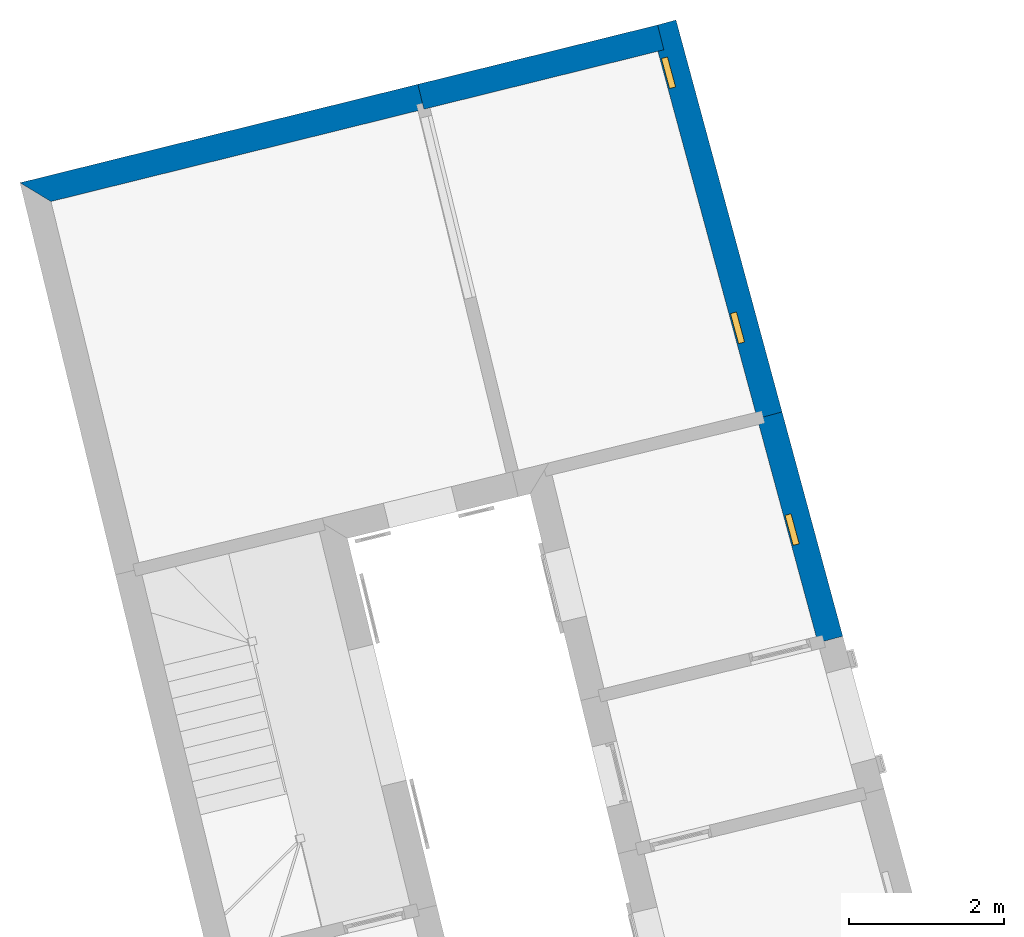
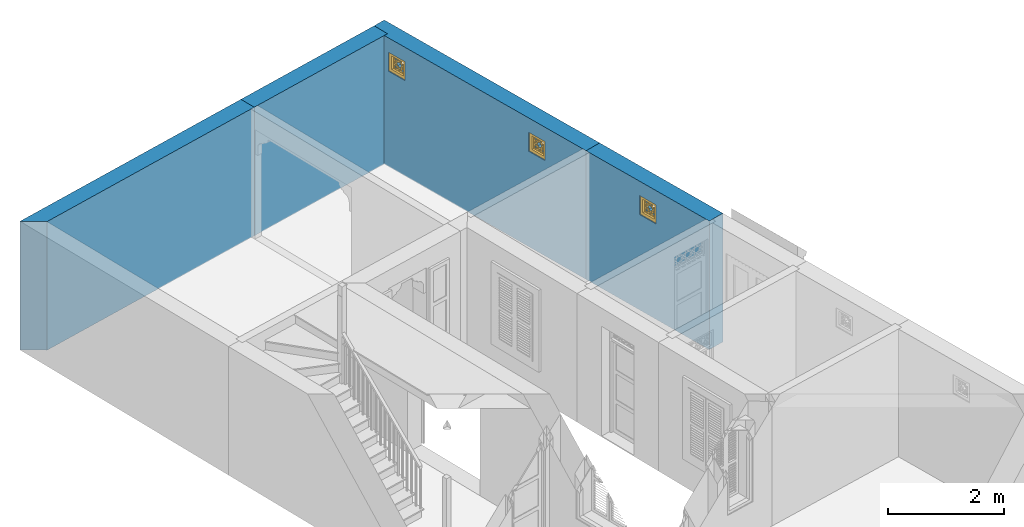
# One storey, part 14 of 15: 4 walls, 3 windows, 3 openings.
"""IFC4 building model written with IfcOpenShell, lengths in metres."""

from ifc_helpers import new_model, si_unit, frame, origin, origin_with_axes, place, context, subcontext, project, spatial, polyline, outline, extrude, faceted_brep, source, transform, mapped, material, layer, layer_set, layer_usage, type_object, type_shapes, element, fill, save


model = new_model("IFC4")

# Units and contexts
model_context = context("Model", 3, world=origin_with_axes())
body_context = subcontext(model_context, "Body", "Model", "MODEL_VIEW")
ifc_project = project(units=[si_unit("PLANEANGLEUNIT", "RADIAN"), si_unit("MASSUNIT", "GRAM", prefix="KILO"), si_unit("FORCEUNIT", "NEWTON", prefix="KILO"), si_unit("LENGTHUNIT", "METRE"), si_unit("AREAUNIT", "SQUARE_METRE"), si_unit("VOLUMEUNIT", "CUBIC_METRE")], contexts=[model_context, model_context])

# Site, building, storey
site_placement = place(None, origin_with_axes())
site = spatial("IfcSite", under=ifc_project, at=site_placement, Name="Site plot-4", CompositionType="ELEMENT")
building_placement = place(None, origin_with_axes())
building = spatial("IfcBuilding", under=site, at=building_placement, Name="Building plot-4", CompositionType="ELEMENT")
storey_placement = place(None, origin_with_axes())
storey = spatial("IfcBuildingStorey", under=building, at=storey_placement, Name="plot-4 0", CompositionType="ELEMENT", Elevation=0.0)

# Wall, opening, window
ifc_material_1 = material(Name="Masonry")
ifc_layer_1 = layer(ifc_material_1, 0.33, ventilated=False)
ifc_layer_set_1 = layer_set([ifc_layer_1], Name="exterior_0.08_0.25")
ifc_layer_usage_1 = layer_usage(ifc_layer_set_1, "AXIS2", "POSITIVE", -0.25)
wall_type_1 = type_object("IfcWallType", Name="exterior_0.08_0.25", PredefinedType="SOLIDWALL", material=ifc_layer_set_1)
wall_1_placement = place(storey_placement, frame((27.3990697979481, 13.5162547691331, 0.0), z_axis=(0.0, 0.0, 1.0), x_axis=(-0.261170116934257, 0.965292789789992, 0.0)))
wall_1 = element("IfcWall", 1, at=wall_1_placement, inside=storey, type_object=wall_type_1, material=ifc_layer_usage_1, Name="exterior", context=body_context, shape_type="SweptSolid", body=[
    extrude(outline(polyline([(3.06879249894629e-16, 0.0799999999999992), (-1.48349299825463e-15, -0.250000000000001), (2.98942630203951, -0.250000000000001), (2.98942630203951, 0.079999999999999), (3.06879249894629e-16, 0.0799999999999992)])), origin_with_axes(), (0.0, 0.0, 1.0), 2.7),
])
opening_1_placement = place(wall_1_placement, frame((1.29471315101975, 0.0, 2.0)))
opening_1 = element("IfcOpeningElement", 2, at=opening_1_placement, cuts=wall_1, Name="My Opening", ObjectType="Opening", context=body_context, shape_type="SweptSolid", body=[
    extrude(outline(polyline([(0.0, -0.270000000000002), (0.399999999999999, -0.270000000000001), (0.399999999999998, 1.1), (-4.44089209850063e-16, 1.1), (0.0, -0.270000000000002)])), origin_with_axes(), (0.0, 0.0, 1.0), 0.4),
])
window_type = type_object("IfcWindowType", Name="barred_window", PartitioningType="DOUBLE_PANEL_HORIZONTAL", PredefinedType="NOTDEFINED")
shared_shape = source(origin(), body_context, "Body", "Brep", [
    faceted_brep([(0.4, 0.25, 0.4), (0.0, 0.25, 0.4), (0.06, 0.25, 0.34), (0.34, 0.25, 0.34), (0.06, 0.33, 0.34), (0.34, 0.33, 0.34), (0.34, 0.25, 0.06), (0.4, 0.25, 0.0), (0.4, 0.33, 0.4), (0.0, 0.33, 0.4), (0.0, 0.25, 0.0), (0.06, 0.25, 0.06), (0.06, 0.33, 0.06), (0.34, 0.33, 0.06), (0.4, 0.33, 0.0), (0.0, 0.33, 0.0), (0.136152, 0.28, 0.08), (0.08, 0.28, 0.08), (0.06, 0.28, 0.06), (0.136152, 0.28, 0.06), (0.136152, 0.29, 0.08), (0.08, 0.29, 0.08), (0.06, 0.28, 0.136152), (0.08, 0.28, 0.136152), (0.06, 0.29, 0.06), (0.136152, 0.29, 0.06), (0.170294, 0.28, 0.08), (0.170294, 0.28, 0.06), (0.136152, 0.28, 0.136152), (0.136152, 0.29, 0.136152), (0.08, 0.29, 0.136152), (0.06, 0.29, 0.136152), (0.08, 0.28, 0.170294), (0.06, 0.28, 0.170294), (0.170294, 0.29, 0.06), (0.229706, 0.28, 0.08), (0.229706, 0.28, 0.06), (0.156152, 0.28, 0.094142), (0.156152, 0.28, 0.136152), (0.185858, 0.28, 0.123848), (0.185858, 0.29, 0.123848), (0.156152, 0.29, 0.094142), (0.156152, 0.29, 0.136152), (0.229706, 0.29, 0.08), (0.170294, 0.29, 0.08), (0.2, 0.28, 0.109706), (0.2, 0.29, 0.109706), (0.06, 0.29, 0.170294), (0.094142, 0.28, 0.156152), (0.08, 0.28, 0.229706), (0.06, 0.28, 0.229706), (0.229706, 0.29, 0.06), (0.263848, 0.28, 0.08), (0.263848, 0.28, 0.06), (0.156152, 0.28, 0.156152), (0.136152, 0.28, 0.156152), (0.173553, 0.28, 0.136152), (0.173553, 0.29, 0.136152), (0.156152, 0.29, 0.156152), (0.136152, 0.29, 0.156152), (0.094142, 0.29, 0.156152), (0.08, 0.29, 0.170294), (0.06, 0.29, 0.229706), (0.123848, 0.28, 0.185858), (0.109706, 0.28, 0.2), (0.08, 0.29, 0.229706), (0.08, 0.28, 0.263848), (0.06, 0.28, 0.263848), (0.263848, 0.29, 0.06), (0.2, 0.28, 0.13799), (0.214142, 0.28, 0.123848), (0.34, 0.28, 0.06), (0.32, 0.28, 0.08), (0.181838, 0.28, 0.156152), (0.136152, 0.28, 0.173553), (0.156152, 0.28, 0.181838), (0.181838, 0.29, 0.156152), (0.2, 0.29, 0.13799), (0.214142, 0.29, 0.123848), (0.136152, 0.29, 0.173553), (0.156152, 0.29, 0.181838), (0.243848, 0.28, 0.094142), (0.243848, 0.29, 0.094142), (0.263848, 0.28, 0.136152), (0.263848, 0.29, 0.08), (0.263848, 0.29, 0.136152), (0.32, 0.29, 0.08), (0.243848, 0.28, 0.136152), (0.243848, 0.29, 0.136152), (0.06, 0.29, 0.263848), (0.123848, 0.29, 0.185858), (0.13799, 0.28, 0.2), (0.123848, 0.28, 0.214142), (0.109706, 0.29, 0.2), (0.094142, 0.28, 0.243848), (0.08, 0.28, 0.32), (0.06, 0.28, 0.34), (0.34, 0.29, 0.06), (0.218162, 0.28, 0.156152), (0.226447, 0.28, 0.136152), (0.34, 0.28, 0.229706), (0.32, 0.28, 0.229706), (0.32, 0.28, 0.170294), (0.32, 0.28, 0.136152), (0.218162, 0.29, 0.156152), (0.226447, 0.29, 0.136152), (0.13799, 0.29, 0.2), (0.32, 0.29, 0.136152), (0.08, 0.29, 0.263848), (0.06, 0.29, 0.34), (0.136152, 0.28, 0.226447), (0.156152, 0.28, 0.218162), (0.094142, 0.29, 0.243848), (0.123848, 0.29, 0.214142), (0.136152, 0.28, 0.243848), (0.136152, 0.28, 0.263848), (0.08, 0.29, 0.32), (0.136152, 0.28, 0.34), (0.136152, 0.28, 0.32), (0.34, 0.29, 0.229706), (0.243848, 0.28, 0.156152), (0.263848, 0.28, 0.156152), (0.34, 0.28, 0.263848), (0.32, 0.28, 0.263848), (0.32, 0.29, 0.229706), (0.32, 0.29, 0.170294), (0.290294, 0.28, 0.2), (0.276152, 0.28, 0.185858), (0.305858, 0.28, 0.156152), (0.243848, 0.29, 0.156152), (0.263848, 0.29, 0.156152), (0.305858, 0.29, 0.156152), (0.276152, 0.29, 0.185858), (0.290294, 0.29, 0.2), (0.136152, 0.29, 0.34), (0.136152, 0.29, 0.226447), (0.156152, 0.29, 0.218162), (0.156152, 0.28, 0.243848), (0.136152, 0.29, 0.243848), (0.156152, 0.28, 0.263848), (0.136152, 0.29, 0.263848), (0.136152, 0.29, 0.32), (0.170294, 0.28, 0.32), (0.170294, 0.28, 0.34), (0.34, 0.29, 0.263848), (0.243848, 0.28, 0.181838), (0.263848, 0.28, 0.173553), (0.34, 0.28, 0.34), (0.32, 0.28, 0.32), (0.305858, 0.28, 0.243848), (0.276152, 0.28, 0.214142), (0.26201, 0.28, 0.2), (0.243848, 0.29, 0.181838), (0.263848, 0.29, 0.173553), (0.26201, 0.29, 0.2), (0.276152, 0.29, 0.214142), (0.32, 0.29, 0.263848), (0.170294, 0.29, 0.34), (0.156152, 0.29, 0.243848), (0.173553, 0.28, 0.263848), (0.181838, 0.28, 0.243848), (0.156152, 0.28, 0.305858), (0.229706, 0.28, 0.32), (0.229706, 0.28, 0.34), (0.34, 0.29, 0.34), (0.263848, 0.28, 0.34), (0.263848, 0.28, 0.32), (0.32, 0.29, 0.32), (0.263848, 0.28, 0.263848), (0.263848, 0.28, 0.243848), (0.305858, 0.29, 0.243848), (0.263848, 0.28, 0.226447), (0.243848, 0.28, 0.218162), (0.243848, 0.29, 0.218162), (0.263848, 0.29, 0.226447), (0.156152, 0.29, 0.263848), (0.170294, 0.29, 0.32), (0.229706, 0.29, 0.34), (0.181838, 0.29, 0.243848), (0.173553, 0.29, 0.263848), (0.185858, 0.28, 0.276152), (0.2, 0.28, 0.26201), (0.156152, 0.29, 0.305858), (0.229706, 0.29, 0.32), (0.263848, 0.29, 0.34), (0.263848, 0.29, 0.32), (0.263848, 0.29, 0.263848), (0.243848, 0.28, 0.243848), (0.243848, 0.28, 0.263848), (0.263848, 0.29, 0.243848), (0.243848, 0.29, 0.243848), (0.2, 0.29, 0.26201), (0.185858, 0.29, 0.276152), (0.214142, 0.28, 0.276152), (0.218162, 0.28, 0.243848), (0.226447, 0.28, 0.263848), (0.243848, 0.28, 0.305858), (0.2, 0.28, 0.290294), (0.2, 0.29, 0.290294), (0.243848, 0.29, 0.263848), (0.218162, 0.29, 0.243848), (0.214142, 0.29, 0.276152), (0.226447, 0.29, 0.263848), (0.243848, 0.29, 0.305858)], [[[0, 1, 2, 3]], [[3, 2, 4, 5]], [[3, 6, 7, 0]], [[1, 0, 8, 9]], [[1, 10, 11, 2]], [[2, 11, 12, 4]], [[9, 8, 5, 4]], [[6, 3, 5, 13]], [[6, 11, 10, 7]], [[0, 7, 14, 8]], [[10, 1, 9, 15]], [[11, 6, 13, 12]], [[4, 12, 15, 9]], [[8, 14, 13, 5]], [[7, 10, 15, 14]], [[12, 13, 14, 15]], [[16, 17, 18, 19]], [[17, 16, 20, 21]], [[22, 18, 17, 23]], [[19, 18, 24, 25]], [[26, 16, 19, 27]], [[16, 28, 29, 20]], [[21, 20, 25, 24]], [[23, 17, 21, 30]], [[18, 22, 31, 24]], [[23, 32, 33, 22]], [[27, 19, 25, 34]], [[35, 26, 27, 36]], [[28, 16, 37, 38]], [[37, 39, 40, 41]], [[38, 37, 41, 42]], [[20, 29, 42, 41]], [[26, 35, 43, 44]], [[45, 26, 44, 46]], [[20, 44, 34, 25]], [[28, 23, 30, 29]], [[24, 31, 30, 21]], [[22, 33, 47, 31]], [[48, 32, 23]], [[32, 49, 50, 33]], [[36, 27, 34, 51]], [[39, 37, 26, 45]], [[52, 35, 36, 53]], [[38, 54, 55, 28]], [[39, 56, 57, 40]], [[41, 40, 46, 44]], [[56, 38, 42, 57]], [[58, 42, 29, 59]], [[35, 45, 46, 43]], [[44, 43, 51, 34]], [[23, 28, 55, 48]], [[29, 30, 60, 59]], [[61, 30, 31, 47]], [[33, 50, 62, 47]], [[48, 63, 64, 32]], [[49, 32, 61, 65]], [[49, 66, 67, 50]], [[53, 36, 51, 68]], [[69, 39, 45, 70]], [[53, 71, 72, 52]], [[73, 54, 38, 56]], [[74, 55, 54, 75]], [[56, 39, 69, 73]], [[40, 57, 76, 77]], [[40, 77, 78, 46]], [[58, 76, 57, 42]], [[59, 79, 80, 58]], [[45, 35, 81, 70]], [[43, 46, 78, 82]], [[83, 52, 84, 85]], [[82, 84, 43]], [[52, 72, 86, 84]], [[43, 84, 68, 51]], [[44, 20, 41]], [[70, 81, 82, 78]], [[81, 87, 88, 82]], [[48, 55, 59, 60]], [[61, 60, 30]], [[65, 61, 47, 62]], [[50, 67, 89, 62]], [[63, 48, 60, 90]], [[63, 91, 92, 64]], [[32, 64, 93, 61]], [[64, 49, 65, 93]], [[94, 66, 49]], [[66, 95, 96, 67]], [[71, 53, 68, 97]], [[98, 69, 70, 99]], [[81, 52, 83, 87]], [[72, 71, 100]], [[100, 101, 102]], [[103, 72, 100]], [[100, 102, 103]], [[54, 73, 76, 58]], [[55, 74, 79, 59]], [[75, 54, 58, 80]], [[63, 74, 75, 91]], [[73, 69, 77, 76]], [[77, 104, 105, 78]], [[79, 90, 106, 80]], [[84, 82, 88, 85]], [[103, 83, 85, 107]], [[72, 103, 107, 86]], [[97, 68, 84, 86]], [[99, 70, 78, 105]], [[87, 99, 105, 88]], [[90, 60, 61, 93]], [[108, 65, 62, 89]], [[67, 96, 109, 89]], [[74, 63, 90, 79]], [[110, 92, 91, 111]], [[49, 64, 92, 94]], [[93, 65, 112, 113]], [[94, 114, 115, 66]], [[95, 66, 108, 116]], [[117, 96, 95, 118]], [[100, 71, 97, 119]], [[69, 98, 104, 77]], [[99, 87, 120, 98]], [[87, 83, 121, 120]], [[101, 100, 122, 123]], [[102, 101, 124, 125]], [[121, 83, 103]], [[103, 102, 126]], [[126, 127, 128]], [[128, 121, 103]], [[103, 126, 128]], [[91, 75, 80, 106]], [[88, 105, 104, 129]], [[106, 90, 93, 113]], [[85, 88, 129, 130]], [[107, 85, 130]], [[131, 132, 133]], [[107, 130, 131]], [[133, 125, 107]], [[107, 131, 133]], [[124, 119, 97]], [[97, 86, 107]], [[107, 125, 124]], [[97, 107, 124]], [[108, 112, 65]], [[116, 108, 89, 109]], [[96, 117, 134, 109]], [[92, 110, 135, 113]], [[111, 91, 106, 136]], [[114, 110, 111, 137]], [[94, 92, 113, 112]], [[114, 94, 112, 138]], [[114, 137, 139, 115]], [[66, 115, 140, 108]], [[118, 95, 116, 141]], [[118, 142, 143, 117]], [[122, 100, 119, 144]], [[98, 120, 129, 104]], [[145, 120, 121, 146]], [[122, 147, 148, 123]], [[123, 149, 101]], [[101, 126, 133, 124]], [[126, 102, 125, 133]], [[127, 126, 150, 151]], [[128, 127, 132, 131]], [[121, 128, 131, 130]], [[113, 135, 136, 106]], [[129, 152, 153, 130]], [[133, 132, 154, 155]], [[119, 124, 156, 144]], [[138, 112, 108, 140]], [[109, 134, 141, 116]], [[117, 143, 157, 134]], [[110, 114, 138, 135]], [[137, 111, 136, 158]], [[159, 139, 137, 160]], [[118, 115, 139, 161]], [[115, 118, 141, 140]], [[161, 142, 118]], [[162, 163, 143, 142]], [[147, 122, 144, 164]], [[120, 145, 152, 129]], [[146, 121, 130, 153]], [[146, 127, 151, 145]], [[147, 165, 166, 148]], [[123, 148, 167, 156]], [[149, 123, 168, 169]], [[149, 150, 126, 101]], [[155, 170, 124, 133]], [[151, 150, 171, 172]], [[127, 146, 153, 132]], [[135, 138, 158, 136]], [[132, 153, 152, 154]], [[155, 154, 173, 174]], [[170, 156, 124]], [[164, 144, 156, 167]], [[158, 138, 140, 175]], [[176, 141, 134, 157]], [[143, 163, 177, 157]], [[160, 137, 158, 178]], [[139, 159, 179, 175]], [[180, 159, 160, 181]], [[161, 139, 175, 182]], [[140, 141, 182, 175]], [[166, 165, 163, 162]], [[162, 142, 176, 183]], [[165, 147, 164, 184]], [[145, 151, 154, 152]], [[148, 166, 185, 167]], [[156, 186, 168, 123]], [[187, 169, 168, 188]], [[149, 169, 189, 170]], [[150, 149, 170, 155]], [[171, 150, 155, 174]], [[171, 169, 187, 172]], [[151, 172, 173, 154]], [[189, 174, 173, 190]], [[156, 170, 189, 186]], [[184, 164, 167, 185]], [[175, 179, 178, 158]], [[176, 182, 141]], [[177, 183, 176, 157]], [[163, 165, 184, 177]], [[181, 160, 178, 191]], [[159, 180, 192, 179]], [[180, 161, 182, 192]], [[193, 181, 194, 195]], [[196, 162, 197, 193]], [[180, 197, 142, 161]], [[197, 180, 181, 193]], [[142, 197, 198, 176]], [[162, 196, 166]], [[35, 52, 81]], [[197, 162, 183, 198]], [[185, 166, 168, 186]], [[196, 188, 168, 166]], [[187, 188, 195, 194]], [[169, 171, 174, 189]], [[172, 187, 190, 173]], [[189, 190, 199, 186]], [[184, 185, 183, 177]], [[179, 192, 191, 178]], [[176, 198, 192, 182]], [[194, 181, 191, 200]], [[191, 192, 198, 201]], [[26, 37, 16]], [[193, 195, 202, 201]], [[196, 193, 201, 203]], [[191, 201, 202, 200]], [[183, 203, 201, 198]], [[188, 196, 203, 199]], [[203, 183, 185]], [[199, 203, 185, 186]], [[195, 188, 199, 202]], [[187, 194, 200, 190]], [[199, 190, 200, 202]]]),
])
type_shapes(window_type, [shared_shape])
window_1_placement = place(storey_placement, frame((27.3215584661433, 14.836547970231, 2.0), z_axis=(0.0, 0.0, 1.0), x_axis=(-0.104468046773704, 0.386117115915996, 0.0)))
window_1 = element("IfcWindow", 3, at=window_1_placement, inside=storey, type_object=window_type, Name="toilet street window", OverallHeight=0.4, OverallWidth=0.4, context=body_context, shape_type="MappedRepresentation", body=[
    mapped(shared_shape, transform((0.0, 0.0, 0.0), scale=1.0)),
])
fill(opening_1, window_1)

# Wall, openings, windows
wall_2_placement = place(storey_placement, frame((26.6183209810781, 16.4019264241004, 0.0), z_axis=(0.0, 0.0, 1.0), x_axis=(-0.261170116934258, 0.965292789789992, 0.0)))
wall_2 = element("IfcWall", 4, at=wall_2_placement, inside=storey, type_object=wall_type_1, material=ifc_layer_usage_1, Name="exterior", context=body_context, shape_type="SweptSolid", body=[
    extrude(outline(polyline([(3.60169955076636e-16, 0.0799999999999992), (-1.6500264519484e-15, -0.250000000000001), (5.22469834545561, -0.250000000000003), (5.22469834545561, 0.0799999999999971), (3.60169955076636e-16, 0.0799999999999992)])), origin_with_axes(), (0.0, 0.0, 1.0), 2.7),
])
opening_2_placement = place(wall_2_placement, frame((0.994698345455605, 0.0, 2.0)))
opening_2 = element("IfcOpeningElement", 5, at=opening_2_placement, cuts=wall_2, Name="My Opening", ObjectType="Opening", context=body_context, shape_type="SweptSolid", body=[
    extrude(outline(polyline([(0.0, -0.270000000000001), (0.400000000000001, -0.27), (0.400000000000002, 1.1), (1.88737914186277e-15, 1.1), (0.0, -0.270000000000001)])), origin_with_axes(), (0.0, 0.0, 1.0), 0.4),
])
opening_3_placement = place(wall_2_placement, frame((4.39469834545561, 0.0, 2.0)))
opening_3 = element("IfcOpeningElement", 6, at=opening_3_placement, cuts=wall_2, Name="My Opening", ObjectType="Opening", context=body_context, shape_type="SweptSolid", body=[
    extrude(outline(polyline([(0.0, -0.270000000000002), (0.400000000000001, -0.270000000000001), (0.400000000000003, 1.1), (1.77635683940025e-15, 1.1), (0.0, -0.270000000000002)])), origin_with_axes(), (0.0, 0.0, 1.0), 0.4),
])
window_2_placement = place(storey_placement, frame((26.6191645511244, 17.432617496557, 2.0), z_axis=(0.0, 0.0, 1.0), x_axis=(-0.104468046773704, 0.386117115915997, 0.0)))
window_2 = element("IfcWindow", 7, at=window_2_placement, inside=storey, type_object=window_type, Name="kitchen street window", OverallHeight=0.4, OverallWidth=0.4, context=body_context, shape_type="MappedRepresentation", body=[
    mapped(shared_shape, transform((0.0, 0.0, 0.0), scale=1.0)),
])
fill(opening_2, window_2)
window_3_placement = place(storey_placement, frame((25.731186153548, 20.714612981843, 2.0), z_axis=(0.0, 0.0, 1.0), x_axis=(-0.104468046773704, 0.386117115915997, 0.0)))
window_3 = element("IfcWindow", 8, at=window_3_placement, inside=storey, type_object=window_type, Name="kitchen street window", OverallHeight=0.4, OverallWidth=0.4, context=body_context, shape_type="MappedRepresentation", body=[
    mapped(shared_shape, transform((0.0, 0.0, 0.0), scale=1.0)),
])
fill(opening_3, window_3)

# Walls
ifc_material_2 = material(Name="Masonry")
ifc_layer_2 = layer(ifc_material_2, 0.33, ventilated=False)
ifc_layer_set_2 = layer_set([ifc_layer_2], Name="party_0.08_0.25")
ifc_layer_usage_2 = layer_usage(ifc_layer_set_2, "AXIS2", "POSITIVE", -0.25)
wall_type_2 = type_object("IfcWallType", Name="party_0.08_0.25", PredefinedType="SOLIDWALL", material=ifc_layer_set_2)
wall_3_placement = place(storey_placement, frame((25.3190784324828, 21.2039668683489, 0.0), z_axis=(0.0, 0.0, 1.0), x_axis=(-0.970711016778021, -0.240250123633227, 0.0)))
element("IfcWall", 9, at=wall_3_placement, inside=storey, type_object=wall_type_2, material=ifc_layer_usage_2, Name="party", context=body_context, shape_type="SweptSolid", body=[
    extrude(outline(polyline([(-1.15156413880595e-15, 0.0800000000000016), (6.8144189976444e-16, -0.250000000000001), (3.17907598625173, -0.250000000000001), (3.17907598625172, 0.0800000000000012), (-1.15156413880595e-15, 0.0800000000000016)])), origin_with_axes(), (0.0, 0.0, 1.0), 2.7),
])
wall_4_placement = place(storey_placement, frame((22.2331143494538, 20.4401934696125, 0.0), z_axis=(0.0, 0.0, 1.0), x_axis=(-0.97071101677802, -0.240250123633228, 0.0)))
element("IfcWall", 10, at=wall_4_placement, inside=storey, type_object=wall_type_2, material=ifc_layer_usage_2, Name="party", context=body_context, shape_type="SweptSolid", body=[
    extrude(outline(polyline([(-1.00945559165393e-15, 0.0800000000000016), (3.48374992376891e-16, -0.250000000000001), (5.27301141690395, -0.250000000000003), (4.94424657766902, 0.0800000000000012), (-1.00945559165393e-15, 0.0800000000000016)])), origin_with_axes(), (0.0, 0.0, 1.0), 2.7),
])

save(model, "model.ifc")
